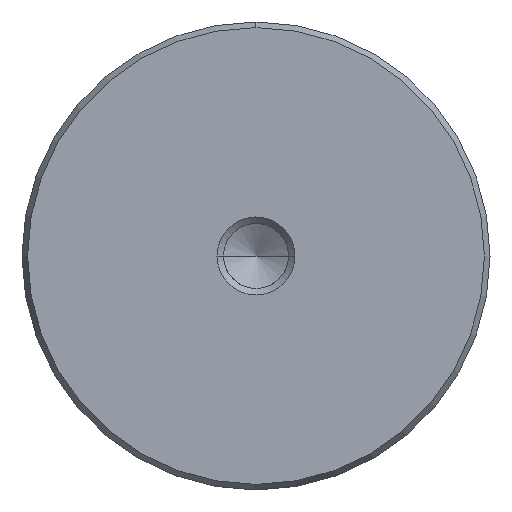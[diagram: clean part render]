
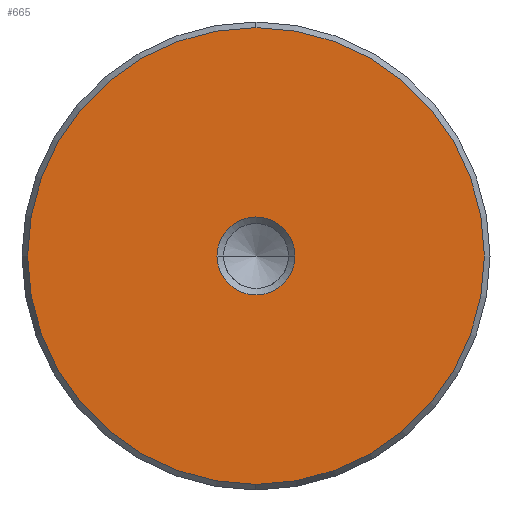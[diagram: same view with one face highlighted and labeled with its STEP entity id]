
A CAD part, left-side view. The second image highlights one B-rep face of the part: STEP entity #665.
In plain terms, the highlighted planar face has unit normal (-1, 0, 0).
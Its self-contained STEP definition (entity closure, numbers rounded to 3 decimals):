
#579=CARTESIAN_POINT('Vertex',(0.,0.,-23.423)) ;
#582=CARTESIAN_POINT('Axis2P3D Location',(0.,0.,0.)) ;
#586=CARTESIAN_POINT('Vertex',(0.,23.423,0.)) ;
#589=CARTESIAN_POINT('Axis2P3D Location',(0.,0.,0.)) ;
#593=CARTESIAN_POINT('Vertex',(0.,0.,23.423)) ;
#615=CARTESIAN_POINT('Axis2P3D Location',(0.,0.,0.)) ;
#619=CARTESIAN_POINT('Vertex',(0.,-23.423,0.)) ;
#622=CARTESIAN_POINT('Axis2P3D Location',(0.,0.,0.)) ;
#636=CARTESIAN_POINT('Axis2P3D Location',(0.,0.,0.)) ;
#647=CARTESIAN_POINT('Axis2P3D Location',(0.,0.,0.)) ;
#651=CARTESIAN_POINT('Vertex',(0.,4.,0.)) ;
#653=CARTESIAN_POINT('Vertex',(0.,-4.,0.)) ;
#656=CARTESIAN_POINT('Axis2P3D Location',(0.,0.,0.)) ;
#583=DIRECTION('Axis2P3D Direction',(1.,0.,-0.)) ;
#590=DIRECTION('Axis2P3D Direction',(1.,0.,-0.)) ;
#616=DIRECTION('Axis2P3D Direction',(1.,0.,-0.)) ;
#623=DIRECTION('Axis2P3D Direction',(1.,0.,-0.)) ;
#637=DIRECTION('Axis2P3D Direction',(1.,0.,-0.)) ;
#638=DIRECTION('Axis2P3D XDirection',(-0.,0.,-1.)) ;
#648=DIRECTION('Axis2P3D Direction',(1.,0.,-0.)) ;
#657=DIRECTION('Axis2P3D Direction',(1.,0.,-0.)) ;
#584=AXIS2_PLACEMENT_3D('Circle Axis2P3D',#582,#583,$) ;
#591=AXIS2_PLACEMENT_3D('Circle Axis2P3D',#589,#590,$) ;
#617=AXIS2_PLACEMENT_3D('Circle Axis2P3D',#615,#616,$) ;
#624=AXIS2_PLACEMENT_3D('Circle Axis2P3D',#622,#623,$) ;
#639=AXIS2_PLACEMENT_3D('Plane Axis2P3D',#636,#637,#638) ;
#649=AXIS2_PLACEMENT_3D('Circle Axis2P3D',#647,#648,$) ;
#658=AXIS2_PLACEMENT_3D('Circle Axis2P3D',#656,#657,$) ;
#642=ORIENTED_EDGE('',*,*,#588,.F.) ;
#643=ORIENTED_EDGE('',*,*,#626,.F.) ;
#644=ORIENTED_EDGE('',*,*,#621,.F.) ;
#645=ORIENTED_EDGE('',*,*,#595,.F.) ;
#662=ORIENTED_EDGE('',*,*,#655,.T.) ;
#663=ORIENTED_EDGE('',*,*,#660,.T.) ;
#664=FACE_BOUND('',#661,.T.) ;
#665=ADVANCED_FACE('720-48x400',(#646,#664),#640,.F.) ;
#585=CIRCLE('generated circle',#584,23.423) ;
#592=CIRCLE('generated circle',#591,23.423) ;
#618=CIRCLE('generated circle',#617,23.423) ;
#625=CIRCLE('generated circle',#624,23.423) ;
#650=CIRCLE('generated circle',#649,4.) ;
#659=CIRCLE('generated circle',#658,4.) ;
#588=EDGE_CURVE('',#580,#587,#585,.T.) ;
#595=EDGE_CURVE('',#587,#594,#592,.T.) ;
#621=EDGE_CURVE('',#594,#620,#618,.T.) ;
#626=EDGE_CURVE('',#620,#580,#625,.T.) ;
#655=EDGE_CURVE('',#652,#654,#650,.T.) ;
#660=EDGE_CURVE('',#654,#652,#659,.T.) ;
#641=EDGE_LOOP('',(#642,#643,#644,#645)) ;
#661=EDGE_LOOP('',(#662,#663)) ;
#646=FACE_OUTER_BOUND('',#641,.T.) ;
#640=PLANE('Plane',#639) ;
#580=VERTEX_POINT('',#579) ;
#587=VERTEX_POINT('',#586) ;
#594=VERTEX_POINT('',#593) ;
#620=VERTEX_POINT('',#619) ;
#652=VERTEX_POINT('',#651) ;
#654=VERTEX_POINT('',#653) ;
